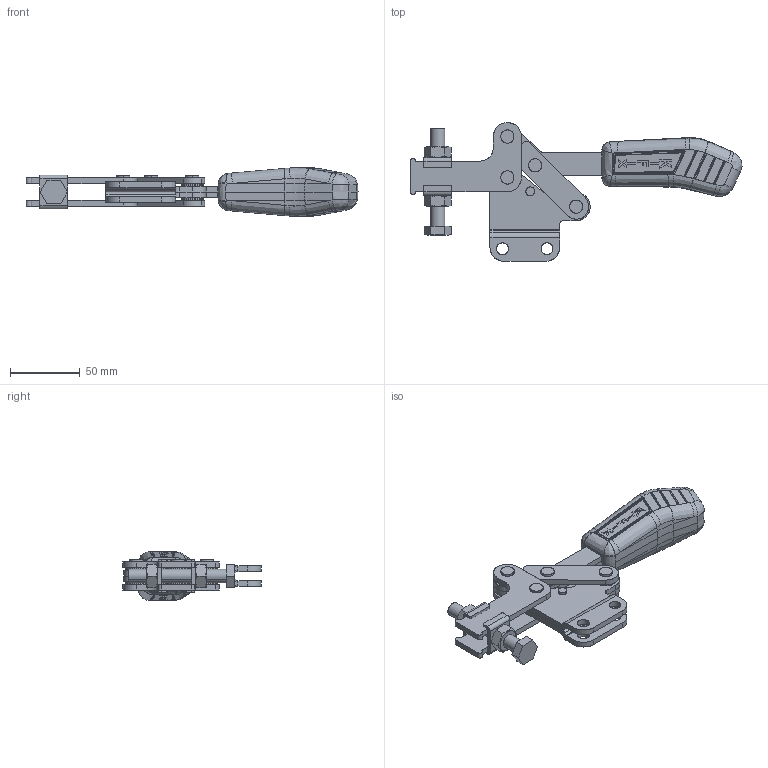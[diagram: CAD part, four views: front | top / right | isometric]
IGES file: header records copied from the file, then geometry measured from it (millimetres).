
Start section: SolidWorks IGES file using analytic representation for surfaces
Global section: file name: C:\Projetos\Grampos\KF-531\KF-531 R\KF-531 R.IGS; native system: SolidWorks 2013; preprocessor: SolidWorks 2013; author: Ricardo; date: 140818.114315; units: millimetre
Bounding box: 238.69 x 99.69 x 35.04 mm (x, y, z)
Surface area: 77252.7 mm2 (no closed solid volume)
Topology: 0 solids, 0 shells, 825 faces, 9632 edges, 9601 vertices
Faces by surface type: bspline 447, revolution 378
